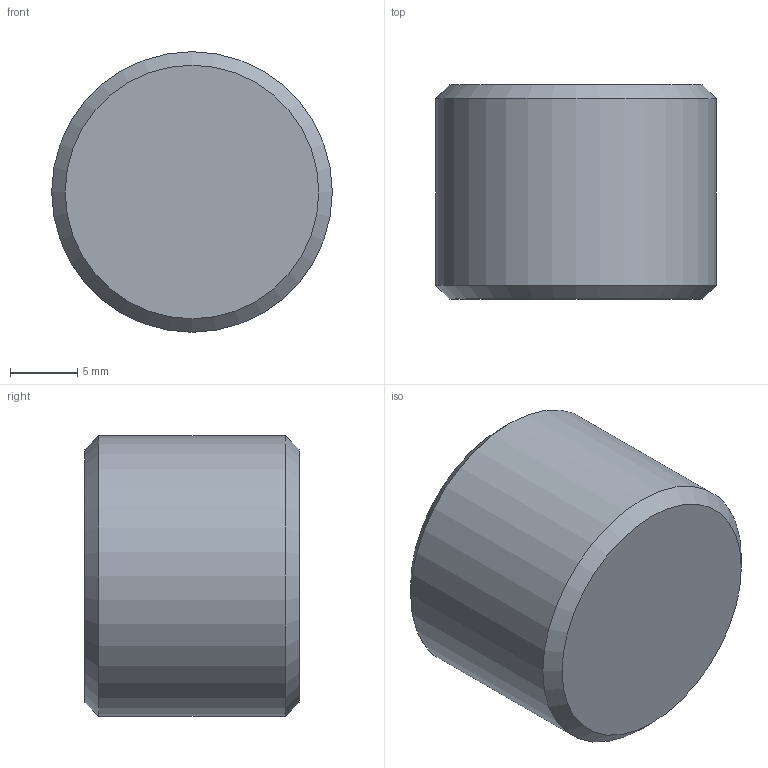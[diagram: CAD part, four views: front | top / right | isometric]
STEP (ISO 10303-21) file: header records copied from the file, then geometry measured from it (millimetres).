
FILE_DESCRIPTION(/* description */ (''),/* implementation_level */ '2;1');
FILE_NAME(/* name */ 'C:/Users/drich/Desktop/cad/Plugs/NPT Pipe Plugs/Heavy Duty/XTBF-12 v1.step',/* time_stamp */ '2020-01-10T11:42:53-06:00',/* author */ (''),/* organization */ (''),/* preprocessor_version */ 'ST-DEVELOPER v18',/* originating_system */ 'Autodesk Translation Framework v8.12.0.6',/* authorisation */ '');
FILE_SCHEMA (('AUTOMOTIVE_DESIGN { 1 0 10303 214 3 1 1 }'));
Length unit declared in the file: inch
Products named in the file (1): XTBF-12
Bounding box: 20.81 x 15.88 x 20.81 mm (x, y, z)
Volume: 4644.4 mm3; surface area: 1914 mm2
Topology: 1 solids, 1 shells, 13 faces, 35 edges, 25 vertices
Faces by surface type: plane 9, cone 3, cylinder 1
Full cylindrical faces by diameter (mm): 20.813 x1
Entity records: 446 total; most frequent: CARTESIAN_POINT 98, ORIENTED_EDGE 70, DIRECTION 58, EDGE_CURVE 35, VERTEX_POINT 25, AXIS2_PLACEMENT_3D 21, LINE 16, VECTOR 16
